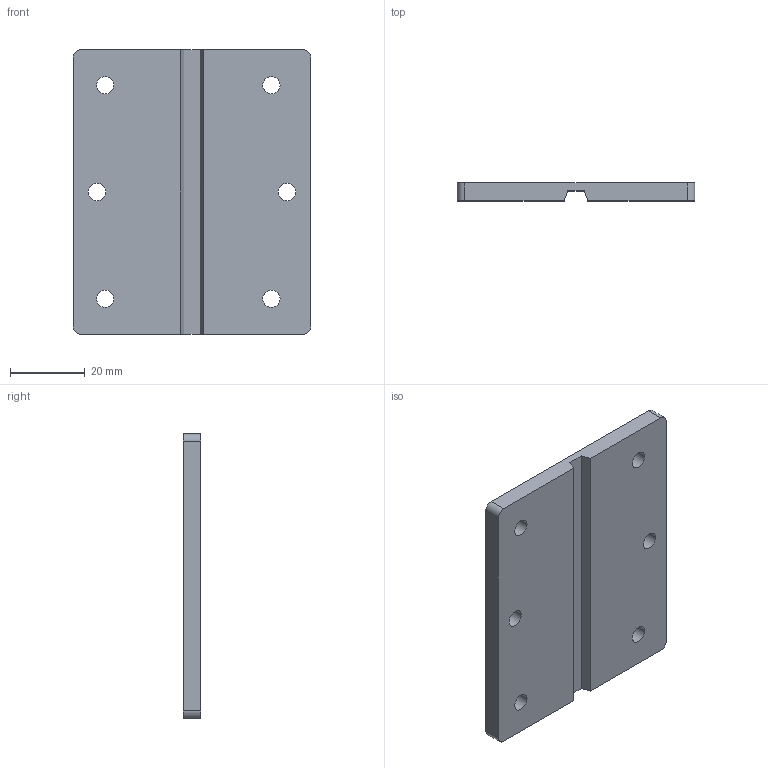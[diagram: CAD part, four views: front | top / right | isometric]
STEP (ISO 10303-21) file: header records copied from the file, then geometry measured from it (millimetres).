
FILE_DESCRIPTION((''),'2;1');
FILE_NAME('6528.stp','2023-10-11T14:23:39',(''),(''),'Mechanical Desktop 2006','Mechanical Desktop 2006',', , ');
FILE_SCHEMA(('CONFIG_CONTROL_DESIGN'));
Length unit declared in the file: millimetre
Products named in the file (2): 6528; TEIL2
Assembly tree (1 placements, depth 2):
  6528
    TEIL2
Bounding box: 63.5 x 4.76 x 76.2 mm (x, y, z)
Volume: 21388.2 mm3; surface area: 11399 mm2
Topology: 1 solids, 1 shells, 38 faces, 96 edges, 60 vertices
Faces by surface type: cylinder 16, cone 12, plane 10
Entity records: 1281 total; most frequent: DIRECTION 220, CARTESIAN_POINT 196, ORIENTED_EDGE 192, EDGE_CURVE 96, AXIS2_PLACEMENT_3D 84, VERTEX_POINT 60, VECTOR 52, LINE 52
